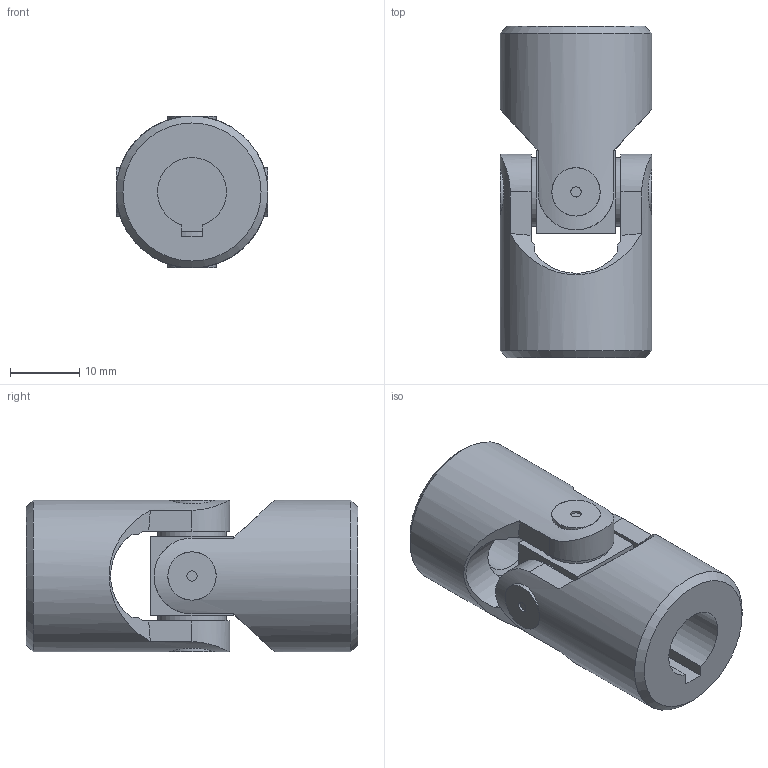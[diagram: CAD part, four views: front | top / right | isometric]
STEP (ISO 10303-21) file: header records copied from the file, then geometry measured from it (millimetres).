
FILE_DESCRIPTION(/* description */ ('EXTENSIBLE TRANSIMISSIONS Series G DIN 808 -2-'),/* implementation_level */ '2;1');
FILE_NAME(/* name */ '\\SRV2016\societa\Stefano\Disegni 3D\Dis. Clienti\0000Catalogo 3D\01Singoli G-GB\SG0S101C.stp',/* time_stamp */ '2021-11-08T14:20:59+01:00',/* author */ ('acquisti'),/* organization */ ('MARIOFERRI'),/* preprocessor_version */ 'ST-DEVELOPER v15.6',/* originating_system */ 'Autodesk Inventor 2015',/* authorisation */ '');
FILE_SCHEMA (('AUTOMOTIVE_DESIGN { 1 0 10303 214 3 1 1 }'));
Length unit declared in the file: millimetre
Products named in the file (4): 03G SFE; 03G MOS; 03G MOC; Assieme1
Assembly tree (3 placements, depth 2):
  Assieme1
    03G SFE
    03G MOS
    03G MOC
Bounding box: 22 x 48 x 22 mm (x, y, z)
Volume: 12462.2 mm3; surface area: 6436.6 mm2
Topology: 3 solids, 3 shells, 79 faces, 183 edges, 120 vertices
Faces by surface type: plane 39, cylinder 26, cone 12, torus 2
Full cylindrical faces by diameter (mm): 1.5 x4, 10 x5, 11.5 x1, 22 x2
Entity records: 2608 total; most frequent: CARTESIAN_POINT 877, DIRECTION 337, ORIENTED_EDGE 326, EDGE_CURVE 163, AXIS2_PLACEMENT_3D 146, VERTEX_POINT 117, EDGE_LOOP 110, FACE_OUTER_BOUND 79
